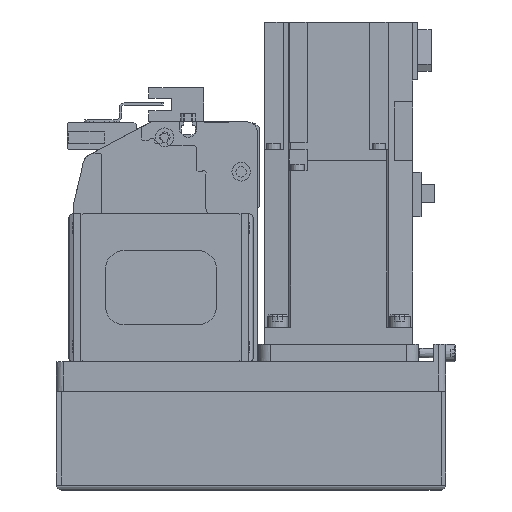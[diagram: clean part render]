
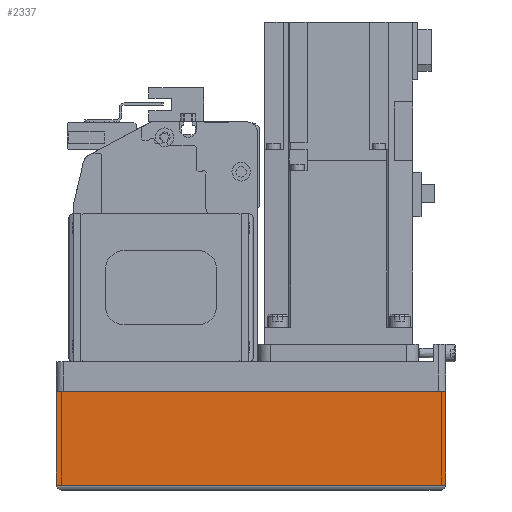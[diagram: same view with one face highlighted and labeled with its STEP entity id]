
A CAD part, left-side view. The second image highlights one B-rep face of the part: STEP entity #2337.
In plain terms, the highlighted planar face has unit normal (-1, 0, 0) as drawn and (0, 1, 0) by its records, which use the part's own axes.
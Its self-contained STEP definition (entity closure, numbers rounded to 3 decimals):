
#2337 = ADVANCED_FACE( '', ( #5376 ), #5377, .T. );
#5376 = FACE_OUTER_BOUND( '', #9179, .T. );
#5377 = PLANE( '', #9180 );
#9179 = EDGE_LOOP( '', ( #15664, #15665, #15666, #15667 ) );
#9180 = AXIS2_PLACEMENT_3D( '', #15668, #15669, #15670 );
#15664 = ORIENTED_EDGE( '', *, *, #23398, .F. );
#15665 = ORIENTED_EDGE( '', *, *, #22393, .F. );
#15666 = ORIENTED_EDGE( '', *, *, #23399, .T. );
#15667 = ORIENTED_EDGE( '', *, *, #23400, .T. );
#15668 = CARTESIAN_POINT( '', ( -158., 39., -50. ) );
#15669 = DIRECTION( '', ( 0., 1., 0. ) );
#15670 = DIRECTION( '', ( 0., 0., 1. ) );
#22393 = EDGE_CURVE( '', #27153, #26081, #27156, .T. );
#23398 = EDGE_CURVE( '', #26081, #28687, #28688, .T. );
#23399 = EDGE_CURVE( '', #27153, #28689, #28690, .T. );
#23400 = EDGE_CURVE( '', #28689, #28687, #28691, .T. );
#26081 = VERTEX_POINT( '', #32278 );
#27153 = VERTEX_POINT( '', #33940 );
#27156 = LINE( '', #33943, #33944 );
#28687 = VERTEX_POINT( '', #36469 );
#28688 = LINE( '', #36470, #36471 );
#28689 = VERTEX_POINT( '', #36472 );
#28690 = LINE( '', #36473, #36474 );
#28691 = LINE( '', #36475, #36476 );
#32278 = CARTESIAN_POINT( '', ( 0., 39., -50. ) );
#33940 = CARTESIAN_POINT( '', ( -158., 39., -50. ) );
#33943 = CARTESIAN_POINT( '', ( -158., 39., -50. ) );
#33944 = VECTOR( '', #41408, 1000. );
#36469 = CARTESIAN_POINT( '', ( 0., 39., -12.1 ) );
#36470 = CARTESIAN_POINT( '', ( 0., 39., -50. ) );
#36471 = VECTOR( '', #42576, 1000. );
#36472 = CARTESIAN_POINT( '', ( -158., 39., -12.1 ) );
#36473 = CARTESIAN_POINT( '', ( -158., 39., -50. ) );
#36474 = VECTOR( '', #42577, 1000. );
#36475 = CARTESIAN_POINT( '', ( -158., 39., -12.1 ) );
#36476 = VECTOR( '', #42578, 1000. );
#41408 = DIRECTION( '', ( 1., 0., 0. ) );
#42576 = DIRECTION( '', ( 0., 0., 1. ) );
#42577 = DIRECTION( '', ( 0., 0., 1. ) );
#42578 = DIRECTION( '', ( 1., 0., 0. ) );
